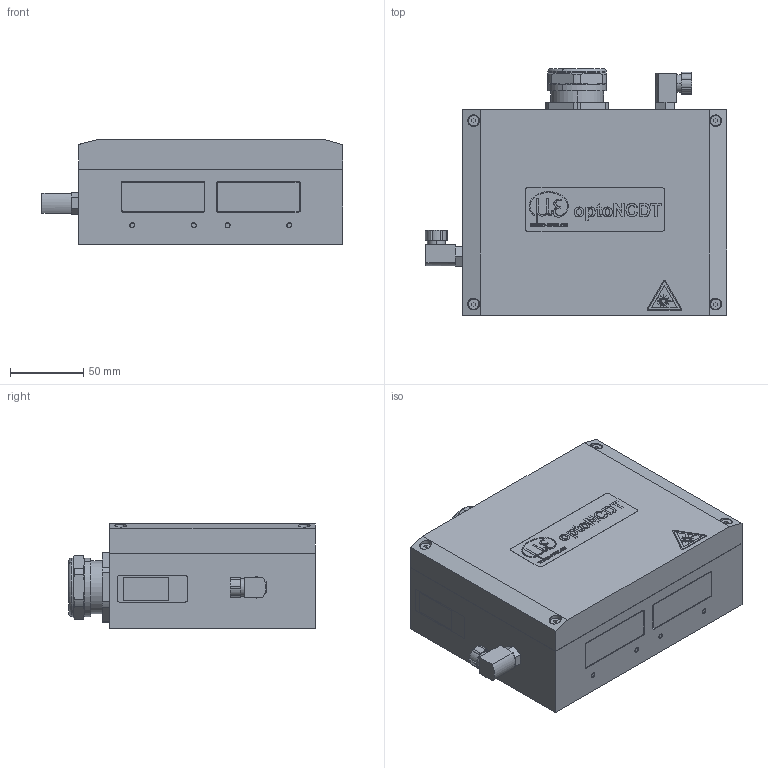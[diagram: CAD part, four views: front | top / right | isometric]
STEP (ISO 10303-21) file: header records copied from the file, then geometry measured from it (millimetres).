
FILE_DESCRIPTION (( 'STEP AP203' ), '1' );
FILE_NAME ('2105044 SGH ILD, Groesse M.STEP', '2013-02-05T12:38:34', ( 'Smy' ), ( 'Hewlett-Packard Company' ), 'SwSTEP 2.0', 'SolidWorks 2012', '' );
FILE_SCHEMA (( 'CONFIG_CONTROL_DESIGN' ));
Length unit declared in the file: millimetre
Products named in the file (1): 2105044  SGH ILD, Groesse M
Bounding box: 205.5 x 168 x 71.45 mm (x, y, z)
Volume: 498137.1 mm3; surface area: 253116.4 mm2
Topology: 1 solids, 2 shells, 983 faces, 2506 edges, 1654 vertices
Faces by surface type: plane 516, bspline 228, cylinder 201, cone 26, torus 12
Entity records: 39583 total; most frequent: CARTESIAN_POINT 16832, ORIENTED_EDGE 5012, DIRECTION 3978, EDGE_CURVE 2506, VERTEX_POINT 1654, LINE 1554, VECTOR 1554, AXIS2_PLACEMENT_3D 1212
